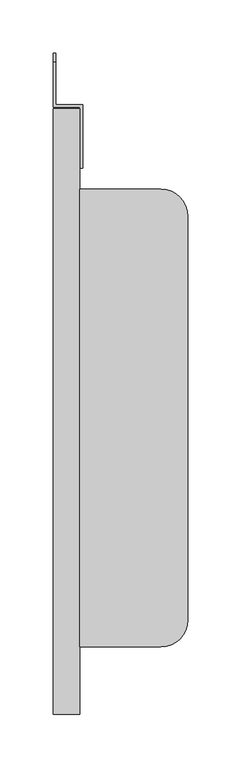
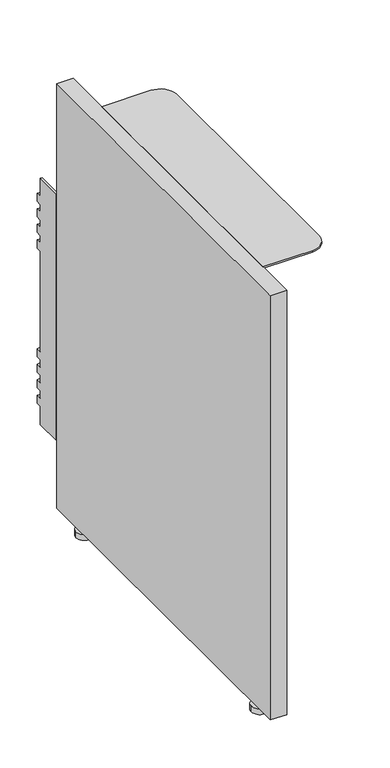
"""IFC4 building model written with IfcOpenShell, lengths in millimetres: furniture geometry."""

from ifc_helpers import new_model, si_unit, point, frame, frame_2d, origin, origin_with_axes, place, context, project, spatial, polyline, circle_curve, trimmed, segment, composite_curve, outline, extrude, faceted_brep, source, transform, mapped, element, save
from ifc_brep_helpers import plane_surface, cylinder_surface, advanced_brep


def furniture_96db114d(model_context):
    return source(origin(), model_context, "Body", "SolidModel", [
        extrude(outline(composite_curve([segment(trimmed(circle_curve(frame_2d((0.0, 233.045)), 5.5348001), [point((5.5348001, 233.045))], [point((-5.5348001, 233.045))], False, "CARTESIAN"), True, "CONTINUOUS"), segment(trimmed(circle_curve(frame_2d((0.0, 233.045)), 5.5348001), [point((-5.5348001, 233.045))], [point((5.5348001, 233.045))], False, "CARTESIAN"), True, "CONTINUOUS")], self_intersect=False)), frame((0.0, 0.0, 9.5504), z_axis=(0.0, 0.0, 1.0), x_axis=(1.0, 0.0, 0.0)), (0.0, 0.0, 1.0), 7.9248),
        extrude(outline(composite_curve([segment(trimmed(circle_curve(frame_2d((0.0, -236.820439)), 5.5860631), [point((5.5860631, -236.820439))], [point((-5.5860631, -236.820439))], False, "CARTESIAN"), True, "CONTINUOUS"), segment(trimmed(circle_curve(frame_2d((0.0, -236.820439)), 5.5860631), [point((-5.5860631, -236.820439))], [point((5.5860631, -236.820439))], False, "CARTESIAN"), True, "CONTINUOUS")], self_intersect=False)), frame((0.0, 0.0, 9.5504), z_axis=(0.0, 0.0, 1.0), x_axis=(1.0, 0.0, 0.0)), (0.0, 0.0, 1.0), 7.9248),
        extrude(outline(composite_curve([segment(trimmed(circle_curve(frame_2d((0.0, 233.045)), 12.7), [point((12.7, 233.045))], [point((-12.7, 233.045))], False, "CARTESIAN"), True, "CONTINUOUS"), segment(trimmed(circle_curve(frame_2d((0.0, 233.045)), 12.7), [point((-12.7, 233.045))], [point((12.7, 233.045))], False, "CARTESIAN"), True, "CONTINUOUS")], self_intersect=False)), origin_with_axes(), (0.0, 0.0, 1.0), 9.5504),
        extrude(outline(composite_curve([segment(trimmed(circle_curve(frame_2d((0.0, -236.820439)), 12.7), [point((12.7, -236.820439))], [point((-12.7, -236.820439))], False, "CARTESIAN"), True, "CONTINUOUS"), segment(trimmed(circle_curve(frame_2d((0.0, -236.820439)), 12.7), [point((-12.7, -236.820439))], [point((12.7, -236.820439))], False, "CARTESIAN"), True, "CONTINUOUS")], self_intersect=False)), origin_with_axes(), (0.0, 0.0, 1.0), 9.5504),
        faceted_brep([(-10.033, 287.655, 127.5715), (15.367, 287.655, 127.5715), (15.367, 227.838, 127.5715), (12.7, 227.838, 127.5715), (12.7, 284.988, 127.5715), (-12.7, 284.988, 127.5715), (-12.7, 327.7362, 127.5715), (-10.033, 327.7362, 127.5715), (-12.7, 284.988, 530.2377), (12.7, 284.988, 530.2377), (12.7, 227.838, 530.2377), (15.367, 227.838, 530.2377), (15.367, 287.655, 530.2377), (-10.033, 287.655, 530.2377), (-10.033, 327.7362, 530.2377), (-12.7, 327.7362, 530.2377), (-10.033, 327.7362, 157.0866461), (-10.033, 336.1944, 157.0866461), (-10.033, 336.1944, 170.5329376), (-10.033, 327.7362, 170.5329376), (-10.033, 327.7362, 182.4866461), (-10.033, 336.1944, 182.4866461), (-10.033, 336.1944, 195.9329376), (-10.033, 327.7362, 195.9329376), (-10.033, 327.7362, 207.8866461), (-10.033, 336.1944, 207.8866461), (-10.033, 336.1944, 221.3329376), (-10.033, 327.7362, 221.3329376), (-10.033, 327.7362, 233.2866461), (-10.033, 336.1944, 233.2866461), (-10.033, 336.1944, 246.7329376), (-10.033, 327.7362, 246.7329376), (-10.033, 327.7362, 411.0762624), (-10.033, 336.1944, 411.0762624), (-10.033, 336.1944, 424.5225539), (-10.033, 327.7362, 424.5225539), (-10.033, 327.7362, 436.4762624), (-10.033, 336.1944, 436.4762624), (-10.033, 336.1944, 449.9225539), (-10.033, 327.7362, 449.9225539), (-10.033, 327.7362, 461.8762624), (-10.033, 336.1944, 461.8762624), (-10.033, 336.1944, 475.3225539), (-10.033, 327.7362, 475.3225539), (-10.033, 327.7362, 487.2762624), (-10.033, 336.1944, 487.2762624), (-10.033, 336.1944, 500.7225539), (-10.033, 327.7362, 500.7225539), (-12.7, 327.7362, 500.7225539), (-12.7, 336.1944, 500.7225539), (-12.7, 336.1944, 487.2762624), (-12.7, 327.7362, 487.2762624), (-12.7, 327.7362, 475.3225539), (-12.7, 336.1944, 475.3225539), (-12.7, 336.1944, 461.8762624), (-12.7, 327.7362, 461.8762624), (-12.7, 327.7362, 449.9225539), (-12.7, 336.1944, 449.9225539), (-12.7, 336.1944, 436.4762624), (-12.7, 327.7362, 436.4762624), (-12.7, 327.7362, 424.5225539), (-12.7, 336.1944, 424.5225539), (-12.7, 336.1944, 411.0762624), (-12.7, 327.7362, 411.0762624), (-12.7, 327.7362, 246.7329376), (-12.7, 336.1944, 246.7329376), (-12.7, 336.1944, 233.2866461), (-12.7, 327.7362, 233.2866461), (-12.7, 327.7362, 221.3329376), (-12.7, 336.1944, 221.3329376), (-12.7, 336.1944, 207.8866461), (-12.7, 327.7362, 207.8866461), (-12.7, 327.7362, 195.9329376), (-12.7, 336.1944, 195.9329376), (-12.7, 336.1944, 182.4866461), (-12.7, 327.7362, 182.4866461), (-12.7, 327.7362, 170.5329376), (-12.7, 336.1944, 170.5329376), (-12.7, 336.1944, 157.0866461), (-12.7, 327.7362, 157.0866461)], [[[0, 1, 2, 3, 4, 5, 6, 7]], [[8, 9, 10, 11, 12, 13, 14, 15]], [[13, 0, 7, 16, 17, 18, 19, 20, 21, 22, 23, 24, 25, 26, 27, 28, 29, 30, 31, 32, 33, 34, 35, 36, 37, 38, 39, 40, 41, 42, 43, 44, 45, 46, 47, 14]], [[1, 0, 13, 12]], [[2, 1, 12, 11]], [[3, 2, 11, 10]], [[4, 3, 10, 9]], [[5, 4, 9, 8]], [[5, 8, 15, 48, 49, 50, 51, 52, 53, 54, 55, 56, 57, 58, 59, 60, 61, 62, 63, 64, 65, 66, 67, 68, 69, 70, 71, 72, 73, 74, 75, 76, 77, 78, 79, 6]], [[18, 17, 78, 77]], [[22, 21, 74, 73]], [[26, 25, 70, 69]], [[30, 29, 66, 65]], [[34, 33, 62, 61]], [[38, 37, 58, 57]], [[42, 41, 54, 53]], [[46, 45, 50, 49]], [[47, 48, 15, 14]], [[79, 16, 7, 6]], [[16, 79, 78, 17]], [[76, 19, 18, 77]], [[19, 76, 75, 20]], [[20, 75, 74, 21]], [[72, 23, 22, 73]], [[23, 72, 71, 24]], [[24, 71, 70, 25]], [[68, 27, 26, 69]], [[27, 68, 67, 28]], [[28, 67, 66, 29]], [[64, 31, 30, 65]], [[31, 64, 63, 32]], [[32, 63, 62, 33]], [[60, 35, 34, 61]], [[35, 60, 59, 36]], [[36, 59, 58, 37]], [[56, 39, 38, 57]], [[39, 56, 55, 40]], [[40, 55, 54, 41]], [[52, 43, 42, 53]], [[43, 52, 51, 44]], [[44, 51, 50, 45]], [[48, 47, 46, 49]]]),
        advanced_brep(
        [(15.367, 207.645, 660.4), (12.7, 207.645, 660.4), (12.7, 207.645, 711.2), (88.9, 207.645, 711.2), (88.9, 207.645, 708.533), (15.367, 207.645, 708.533), (15.367, -224.155, 660.4), (15.367, -224.155, 708.533), (88.9, -224.155, 708.533), (88.9, -224.155, 711.2), (12.7, -224.155, 711.2), (12.7, -224.155, 660.4), (114.3, -198.755, 711.2), (114.3, 182.245, 711.2), (114.3, -198.755, 708.533), (114.3, 182.245, 708.533)],
        [
            (0, 1),
            (1, 2),
            (2, 3),
            (3, 4),
            (4, 5),
            (5, 0),
            (6, 7),
            (7, 8),
            (8, 9),
            (9, 10),
            (10, 11),
            (11, 6),
            (0, 6),
            (11, 1),
            (10, 2),
            (9, 12, circle_curve(frame((88.9, -198.755, 711.2), z_axis=(-2.127981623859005e-12, 0.0, 1.0), x_axis=(0.0, -1.0, 0.0)), 25.4)),
            (12, 13),
            (13, 3, circle_curve(frame((88.9, 182.245, 711.2), z_axis=(-2.127981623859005e-12, 0.0, 1.0), x_axis=(0.0, -1.0, 0.0)), 25.4)),
            (12, 14),
            (14, 15),
            (15, 13),
            (7, 5),
            (4, 15, circle_curve(frame((88.9, 182.245, 708.533), z_axis=(2.127981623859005e-12, 0.0, -1.0), x_axis=(0.0, -1.0, 0.0)), 25.4)),
            (14, 8, circle_curve(frame((88.9, -198.755, 708.533), z_axis=(2.127981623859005e-12, 0.0, -1.0), x_axis=(0.0, -1.0, 0.0)), 25.4)),
        ],
        [
            plane_surface(frame((0.0, 207.645, 0.0), z_axis=(0.0, 1.0, 0.0), x_axis=(0.0, 0.0, 1.0))),
            plane_surface(frame((0.0, -224.155, 0.0), z_axis=(0.0, -1.0, 0.0), x_axis=(0.0, 0.0, 1.0))),
            plane_surface(frame((15.367, 207.645, 660.4), z_axis=(0.0, 0.0, -1.0), x_axis=(0.0, -1.0, 0.0))),
            plane_surface(frame((12.7, 207.645, 660.4), z_axis=(-1.0, 0.0, 0.0), x_axis=(0.0, -1.0, 0.0))),
            plane_surface(frame((12.7, 207.645, 711.2), z_axis=(0.0, 0.0, 1.0), x_axis=(0.0, -1.0, 0.0))),
            plane_surface(frame((114.3, 207.645, 711.2), z_axis=(1.0, 0.0, 0.0), x_axis=(0.0, -1.0, 0.0))),
            plane_surface(frame((114.3, 207.645, 708.533), z_axis=(0.0, 0.0, -1.0), x_axis=(0.0, -1.0, 0.0))),
            plane_surface(frame((15.367, 207.645, 708.533), z_axis=(1.0, 0.0, 0.0), x_axis=(0.0, -1.0, 0.0))),
            cylinder_surface(frame((88.9, 182.245, 711.2), z_axis=(2.127981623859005e-12, 0.0, -1.0), x_axis=(0.0, -1.0, 0.0)), 25.4),
            cylinder_surface(frame((88.9, -198.755, 711.2), z_axis=(2.127981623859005e-12, 0.0, -1.0), x_axis=(0.0, -1.0, 0.0)), 25.4),
        ],
        [
            (0, [[1, 2, 3, 4, 5, 6]]),
            (1, [[7, 8, 9, 10, 11, 12]]),
            (2, [[-1, 13, -12, 14]]),
            (3, [[-2, -14, -11, 15]]),
            (4, [[-15, -10, 16, 17, 18, -3]]),
            (5, [[-17, 19, 20, 21]]),
            (6, [[22, -5, 23, -20, 24, -8]]),
            (7, [[-6, -22, -7, -13]]),
            (8, [[-4, -18, -21, -23]]),
            (9, [[-9, -24, -19, -16]]),
        ],
    ),
        extrude(outline(polyline([(12.7, 283.845), (12.7, -287.655), (-12.7, -287.655), (-12.7, 283.845), (12.7, 283.845)])), frame((0.0, 0.0, 17.4752), z_axis=(0.0, 0.0, 1.0), x_axis=(1.0, 0.0, 0.0)), (0.0, 0.0, 1.0), 693.7248),
    ])


if __name__ == "__main__":
    model = new_model("IFC4")
    model_context = context("Model", 3, world=origin())
    ifc_project = project(units=[si_unit("LENGTHUNIT", "METRE", prefix="MILLI")], contexts=[model_context])
    site = spatial("IfcSite", under=ifc_project)
    building = spatial("IfcBuilding", under=site)
    placement = place(None, origin())
    furniture_shape = furniture_96db114d(model_context)
    element("IfcFurniture", 1, ObjectType="Accessory-Fixed_Height_Gable-Teknion-TLFL : 24\" Depth, Altos Mounting Kit", at=placement, inside=building, context=model_context, shape_type="MappedRepresentation", body=[
        mapped(furniture_shape, transform((0.0, 0.0, 0.0), x_axis=(1.0, 0.0, 0.0), y_axis=(0.0, 1.0, 0.0), z_axis=(0.0, 0.0, 1.0))),
    ])
    save(model, "model.ifc")
